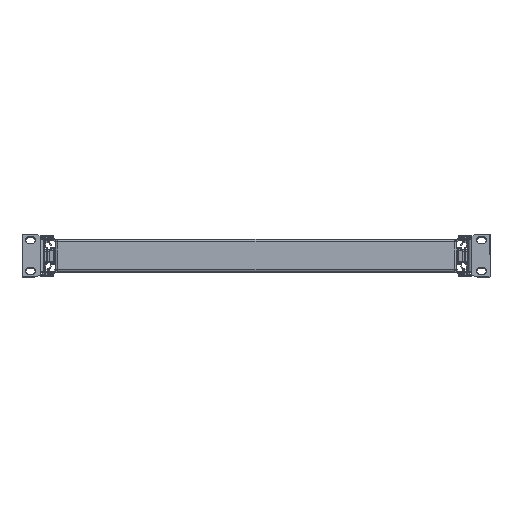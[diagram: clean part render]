
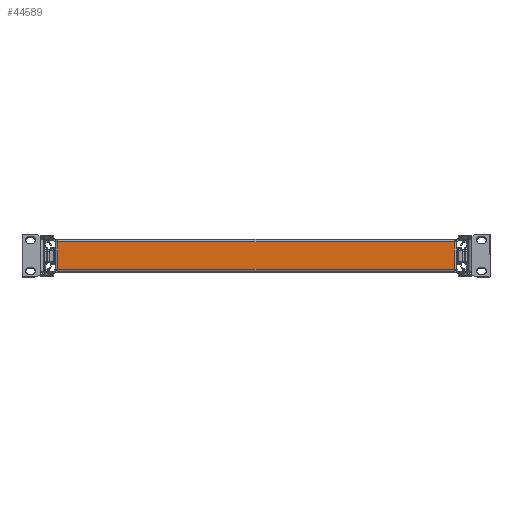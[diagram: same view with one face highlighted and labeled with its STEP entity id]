
A CAD part, top view. The second image highlights one B-rep face of the part: STEP entity #44589.
In plain terms, the highlighted planar face has unit normal (0, 0, 1).
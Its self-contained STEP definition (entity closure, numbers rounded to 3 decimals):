
#623 = DIRECTION ( 'NONE',  ( 1., 0., 0. ) ) ;
#4695 = FACE_OUTER_BOUND ( 'NONE', #48893, .T. ) ;
#4923 = DIRECTION ( 'NONE',  ( 0., 0., 1. ) ) ;
#7102 = ORIENTED_EDGE ( 'NONE', *, *, #48845, .T. ) ;
#7111 = VECTOR ( 'NONE', #623, 1000. ) ;
#7460 = ORIENTED_EDGE ( 'NONE', *, *, #11106, .T. ) ;
#10482 = EDGE_CURVE ( 'NONE', #47571, #50591, #25966, .T. ) ;
#10960 = VECTOR ( 'NONE', #16511, 1000. ) ;
#11106 = EDGE_CURVE ( 'NONE', #50591, #24248, #43242, .T. ) ;
#16511 = DIRECTION ( 'NONE',  ( -1., 0., 0. ) ) ;
#17730 = LINE ( 'NONE', #20595, #7111 ) ;
#20595 = CARTESIAN_POINT ( 'NONE',  ( -204.3, -29.7, 175. ) ) ;
#21229 = VECTOR ( 'NONE', #46455, 1000. ) ;
#24248 = VERTEX_POINT ( 'NONE', #35189 ) ;
#24786 = PLANE ( 'NONE',  #36998 ) ;
#25966 = LINE ( 'NONE', #29038, #10960 ) ;
#28738 = CARTESIAN_POINT ( 'NONE',  ( -207.2, 0., 175. ) ) ;
#29038 = CARTESIAN_POINT ( 'NONE',  ( -207.2, -1.5, 175. ) ) ;
#31102 = VERTEX_POINT ( 'NONE', #42671 ) ;
#32770 = DIRECTION ( 'NONE',  ( 0., -1., 0. ) ) ;
#34078 = DIRECTION ( 'NONE',  ( 0., -1., 0. ) ) ;
#34958 = CARTESIAN_POINT ( 'NONE',  ( 204.3, -32.6, 175. ) ) ;
#35189 = CARTESIAN_POINT ( 'NONE',  ( -204.3, -29.7, 175. ) ) ;
#36998 = AXIS2_PLACEMENT_3D ( 'NONE', #28738, #4923, #32770 ) ;
#38251 = ORIENTED_EDGE ( 'NONE', *, *, #40847, .T. ) ;
#40847 = EDGE_CURVE ( 'NONE', #24248, #31102, #17730, .T. ) ;
#41369 = VECTOR ( 'NONE', #34078, 1000. ) ;
#41567 = CARTESIAN_POINT ( 'NONE',  ( -204.3, -1.5, 175. ) ) ;
#42671 = CARTESIAN_POINT ( 'NONE',  ( 204.3, -29.7, 175. ) ) ;
#43242 = LINE ( 'NONE', #41567, #41369 ) ;
#43871 = ORIENTED_EDGE ( 'NONE', *, *, #10482, .T. ) ;
#44589 = ADVANCED_FACE ( 'NONE', ( #4695 ), #24786, .T. ) ;
#45153 = CARTESIAN_POINT ( 'NONE',  ( 204.3, -1.5, 175. ) ) ;
#46455 = DIRECTION ( 'NONE',  ( 0., 1., 0. ) ) ;
#47571 = VERTEX_POINT ( 'NONE', #45153 ) ;
#48035 = LINE ( 'NONE', #34958, #21229 ) ;
#48845 = EDGE_CURVE ( 'NONE', #31102, #47571, #48035, .T. ) ;
#48893 = EDGE_LOOP ( 'NONE', ( #7460, #38251, #7102, #43871 ) ) ;
#50503 = CARTESIAN_POINT ( 'NONE',  ( -204.3, -1.5, 175. ) ) ;
#50591 = VERTEX_POINT ( 'NONE', #50503 ) ;
